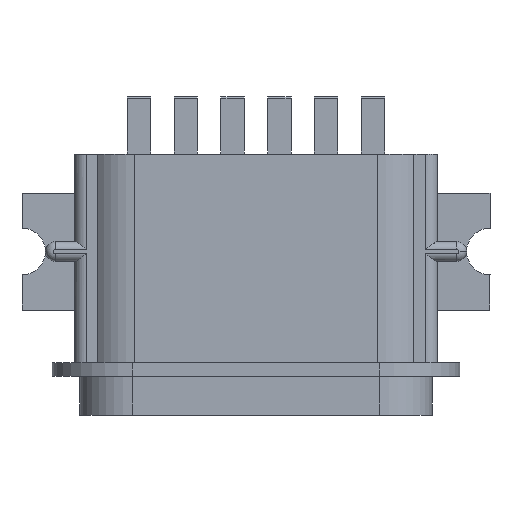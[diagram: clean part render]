
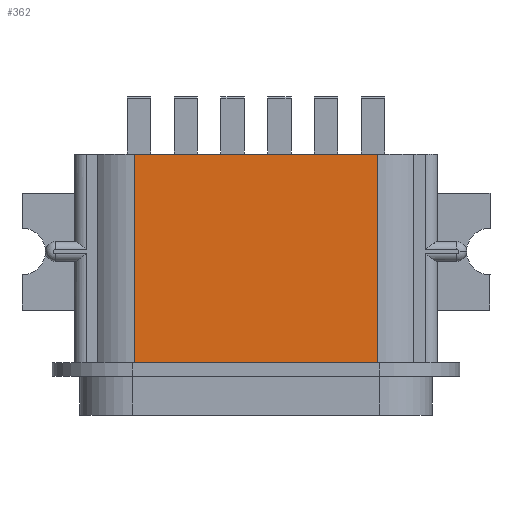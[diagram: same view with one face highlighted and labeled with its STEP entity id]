
A CAD part, front view. The second image highlights one B-rep face of the part: STEP entity #362.
In plain terms, the highlighted planar face has unit normal (0, -1, 0).
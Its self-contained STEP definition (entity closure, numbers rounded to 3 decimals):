
#362 = ADVANCED_FACE ( 'NONE', ( #15435 ), #7175, .F. ) ;
#451 = DIRECTION ( 'NONE',  ( 1., 0., 0. ) ) ;
#798 = EDGE_CURVE ( 'NONE', #12952, #15788, #3420, .T. ) ;
#1684 = LINE ( 'NONE', #9687, #12184 ) ;
#2178 = CARTESIAN_POINT ( 'NONE',  ( 3.102, -1.59, 7.207 ) ) ;
#2876 = CARTESIAN_POINT ( 'NONE',  ( -3.142, -1.59, 7.1 ) ) ;
#3123 = DIRECTION ( 'NONE',  ( 1., 0., 0. ) ) ;
#3189 = VECTOR ( 'NONE', #12758, 1000. ) ;
#3324 = CARTESIAN_POINT ( 'NONE',  ( -3.142, -1.59, 1.75 ) ) ;
#3420 = LINE ( 'NONE', #2178, #3189 ) ;
#3774 = ORIENTED_EDGE ( 'NONE', *, *, #12072, .F. ) ;
#3997 = EDGE_CURVE ( 'NONE', #15788, #17147, #11029, .T. ) ;
#4411 = DIRECTION ( 'NONE',  ( -1., 0., 0. ) ) ;
#5552 = CARTESIAN_POINT ( 'NONE',  ( 3.102, -1.59, 1.75 ) ) ;
#5737 = CARTESIAN_POINT ( 'NONE',  ( 5.414, -1.59, 1.75 ) ) ;
#7175 = PLANE ( 'NONE',  #14338 ) ;
#7367 = ORIENTED_EDGE ( 'NONE', *, *, #13313, .F. ) ;
#8011 = LINE ( 'NONE', #13386, #11638 ) ;
#8681 = ORIENTED_EDGE ( 'NONE', *, *, #798, .F. ) ;
#9687 = CARTESIAN_POINT ( 'NONE',  ( -4.851, -1.59, 7.1 ) ) ;
#11029 = LINE ( 'NONE', #5737, #15254 ) ;
#11638 = VECTOR ( 'NONE', #14784, 1000. ) ;
#12072 = EDGE_CURVE ( 'NONE', #17147, #13428, #8011, .T. ) ;
#12184 = VECTOR ( 'NONE', #451, 1000. ) ;
#12758 = DIRECTION ( 'NONE',  ( 0., 0., -1. ) ) ;
#12952 = VERTEX_POINT ( 'NONE', #15009 ) ;
#13313 = EDGE_CURVE ( 'NONE', #13428, #12952, #1684, .T. ) ;
#13386 = CARTESIAN_POINT ( 'NONE',  ( -3.142, -1.59, 7.207 ) ) ;
#13428 = VERTEX_POINT ( 'NONE', #2876 ) ;
#14338 = AXIS2_PLACEMENT_3D ( 'NONE', #16921, #15514, #3123 ) ;
#14784 = DIRECTION ( 'NONE',  ( 0., 0., 1. ) ) ;
#15009 = CARTESIAN_POINT ( 'NONE',  ( 3.102, -1.59, 7.1 ) ) ;
#15254 = VECTOR ( 'NONE', #4411, 1000. ) ;
#15435 = FACE_OUTER_BOUND ( 'NONE', #16293, .T. ) ;
#15514 = DIRECTION ( 'NONE',  ( 0., 1., 0. ) ) ;
#15788 = VERTEX_POINT ( 'NONE', #5552 ) ;
#16293 = EDGE_LOOP ( 'NONE', ( #7367, #3774, #16336, #8681 ) ) ;
#16336 = ORIENTED_EDGE ( 'NONE', *, *, #3997, .F. ) ;
#16921 = CARTESIAN_POINT ( 'NONE',  ( -3.267, -1.59, 7.207 ) ) ;
#17147 = VERTEX_POINT ( 'NONE', #3324 ) ;
